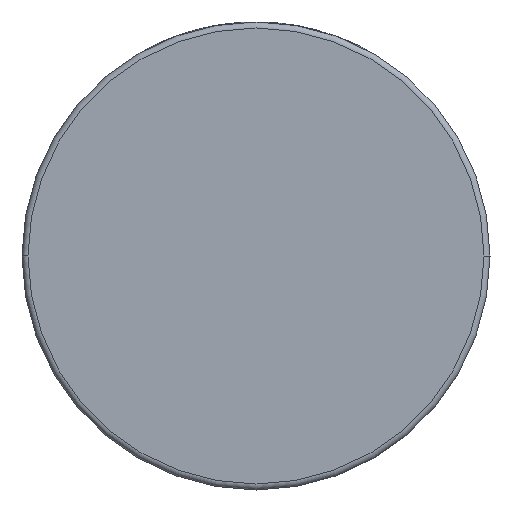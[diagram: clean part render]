
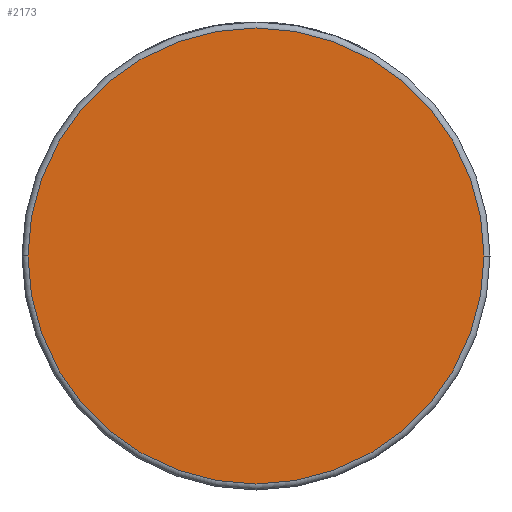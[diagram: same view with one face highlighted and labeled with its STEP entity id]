
A CAD part, front view. The second image highlights one B-rep face of the part: STEP entity #2173.
In plain terms, the highlighted planar face has unit normal (0, -1, 0).
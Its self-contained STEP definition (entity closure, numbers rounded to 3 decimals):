
#11 = CARTESIAN_POINT ( 'NONE',  ( 38., -26.5, 0. ) ) ;
#324 = CARTESIAN_POINT ( 'NONE',  ( -38., -26.5, 0. ) ) ;
#347 = DIRECTION ( 'NONE',  ( 1., 0., 0. ) ) ;
#606 = CARTESIAN_POINT ( 'NONE',  ( 0., -26.5, 0. ) ) ;
#708 = CIRCLE ( 'NONE', #3658, 38. ) ;
#974 = CARTESIAN_POINT ( 'NONE',  ( 0., -26.5, 0. ) ) ;
#1072 = CIRCLE ( 'NONE', #3869, 38. ) ;
#1284 = PLANE ( 'NONE',  #2391 ) ;
#1626 = DIRECTION ( 'NONE',  ( 0., -1., 0. ) ) ;
#1641 = ORIENTED_EDGE ( 'NONE', *, *, #1642, .T. ) ;
#1642 = EDGE_CURVE ( 'NONE', #1658, #2357, #708, .T. ) ;
#1652 = CARTESIAN_POINT ( 'NONE',  ( 39., -26.5, 0. ) ) ;
#1658 = VERTEX_POINT ( 'NONE', #11 ) ;
#1943 = DIRECTION ( 'NONE',  ( 1., 0., 0. ) ) ;
#2040 = ORIENTED_EDGE ( 'NONE', *, *, #2368, .T. ) ;
#2173 = ADVANCED_FACE ( 'NONE', ( #4308 ), #1284, .T. ) ;
#2299 = DIRECTION ( 'NONE',  ( 0., -1., 0. ) ) ;
#2357 = VERTEX_POINT ( 'NONE', #324 ) ;
#2368 = EDGE_CURVE ( 'NONE', #2357, #1658, #1072, .T. ) ;
#2391 = AXIS2_PLACEMENT_3D ( 'NONE', #1652, #2981, #347 ) ;
#2981 = DIRECTION ( 'NONE',  ( 0., -1., 0. ) ) ;
#3658 = AXIS2_PLACEMENT_3D ( 'NONE', #974, #2299, #3717 ) ;
#3717 = DIRECTION ( 'NONE',  ( 1., 0., 0. ) ) ;
#3869 = AXIS2_PLACEMENT_3D ( 'NONE', #606, #1626, #1943 ) ;
#3945 = EDGE_LOOP ( 'NONE', ( #1641, #2040 ) ) ;
#4308 = FACE_OUTER_BOUND ( 'NONE', #3945, .T. ) ;
